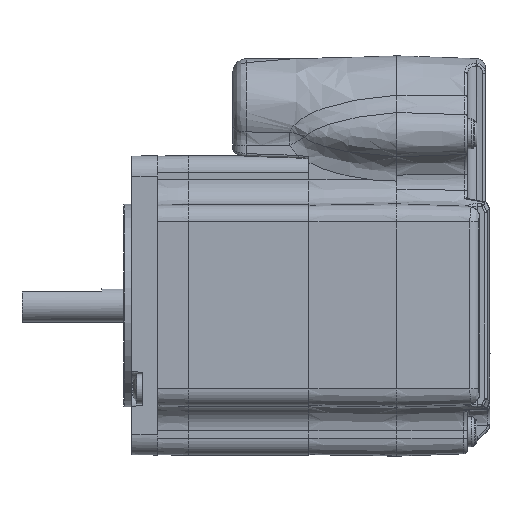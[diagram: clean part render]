
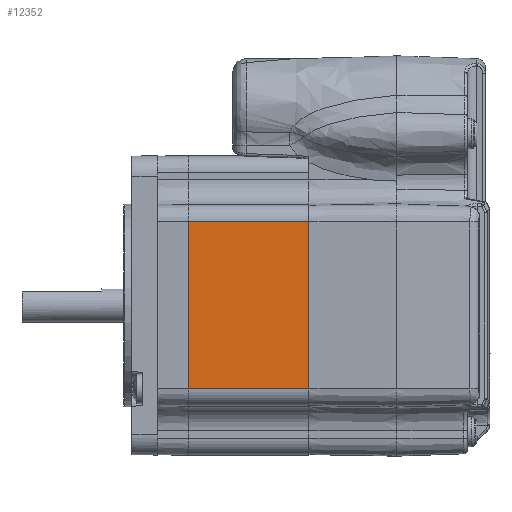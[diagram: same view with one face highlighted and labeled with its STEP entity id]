
A CAD part, left-side view. The second image highlights one B-rep face of the part: STEP entity #12352.
In plain terms, the highlighted planar face has unit normal (-1, 0, 0).
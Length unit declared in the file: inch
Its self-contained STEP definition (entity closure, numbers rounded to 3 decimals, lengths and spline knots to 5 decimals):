
#4196=VERTEX_POINT('',#13171);
#4410=EDGE_CURVE('MDrive23Plus,  Single Stack, P1 (IO PWR, P)  and  P2 (RD or RL 10-Pin)[3]',#8831,#4196,#13418,.F.);
#5022=VERTEX_POINT('',#14127);
#6268=EDGE_CURVE('MDrive23Plus,  Single Stack, P1 (IO PWR, P)  and  P2 (RD or RL 10-Pin)[3]',#5022,#4196,#15497,.T.);
#7001=EDGE_CURVE('MDrive23Plus,  Single Stack, P1 (IO PWR, P)  and  P2 (RD or RL 10-Pin)[3]',#8831,#11009,#16292,.T.);
#8831=VERTEX_POINT('',#18315);
#11009=VERTEX_POINT('',#20719);
#11376=EDGE_CURVE('MDrive23Plus,  Single Stack, P1 (IO PWR, P)  and  P2 (RD or RL 10-Pin)[3]',#11009,#5022,#21118,.T.);
#12352=ADVANCED_FACE('MDrive23Plus,  Single Stack, P1 (IO PWR, P)  and  P2 (RD or RL 10-Pin)[3]',(#22202),#22203,.T.);
#13171=CARTESIAN_POINT('',(-1.96149,2.46297,-0.67063));
#13418=LINE('',#24180,#24181);
#14127=CARTESIAN_POINT('',(-1.96149,1.57521,-0.67063));
#15497=LINE('',#30980,#30981);
#16292=LINE('',#33354,#33355);
#18315=CARTESIAN_POINT('',(-1.96149,2.46297,0.56486));
#20719=CARTESIAN_POINT('',(-1.96149,1.57521,0.56486));
#21118=LINE('',#49873,#49874);
#22202=FACE_OUTER_BOUND('',#53573,.T.);
#22203=PLANE('',#53574);
#24180=CARTESIAN_POINT('',(-1.96149,2.46297,0.28689));
#24181=VECTOR('',#56338,1.0);
#30980=CARTESIAN_POINT('',(-1.96149,1.57521,-0.67063));
#30981=VECTOR('',#58161,1.0);
#33354=CARTESIAN_POINT('',(-1.96149,1.57521,0.56486));
#33355=VECTOR('',#58669,1.0);
#49873=CARTESIAN_POINT('',(-1.96149,1.57521,-0.73244));
#49874=VECTOR('',#62420,1.33373);
#53573=EDGE_LOOP('',(#63310,#63311,#63312,#63313));
#53574=AXIS2_PLACEMENT_3D('',#63314,#63315,#63316);
#56338=DIRECTION('',(0.0,0.0,1.0));
#58161=DIRECTION('',(0.0,1.0,0.0));
#58669=DIRECTION('',(0.0,-1.0,0.0));
#62420=DIRECTION('',(0.0,0.0,-1.0));
#63310=ORIENTED_EDGE('',*,*,#6268,.F.);
#63311=ORIENTED_EDGE('',*,*,#11376,.F.);
#63312=ORIENTED_EDGE('',*,*,#7001,.F.);
#63313=ORIENTED_EDGE('',*,*,#4410,.T.);
#63314=CARTESIAN_POINT('',(-1.96149,1.57521,0.62667));
#63315=DIRECTION('',(-1.0,0.0,0.0));
#63316=DIRECTION('',(0.0,0.0,1.0));
